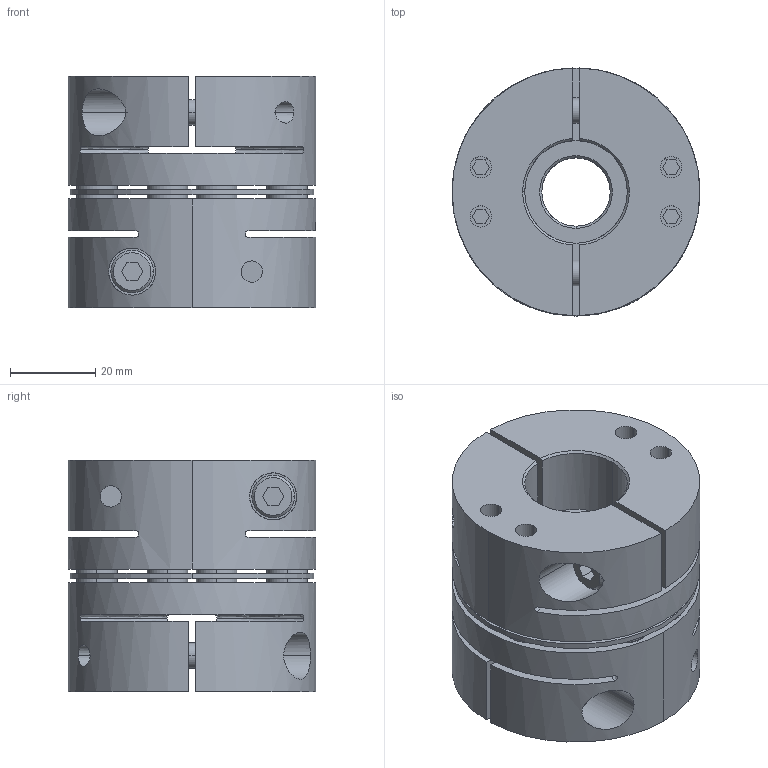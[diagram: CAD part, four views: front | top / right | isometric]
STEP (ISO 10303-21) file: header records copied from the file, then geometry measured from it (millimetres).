
FILE_DESCRIPTION((''),'2;1');
FILE_NAME('TAS-58C-16×24.stp','2022-11-14T22:14:17',(''),(''),'AutoCAD STEP 2000i','AutoCAD 2000i',', , ');
FILE_SCHEMA(('CONFIG_CONTROL_DESIGN'));
Length unit declared in the file: millimetre
Products named in the file (6): TAS-58C-12×22; 忣兜1; TA58C-22; CAP-M6×20; TA58C-12-2; TA58C-12
Assembly tree (7 placements, depth 3):
  TAS-58C-12×22
    忣兜1
    TA58C-22
      CAP-M6×20
    TA58C-12-2
      CAP-M6×20
    TA58C-12
      CAP-M6×20
Bounding box: 58 x 58 x 54.25 mm (x, y, z)
Volume: 105300.9 mm3; surface area: 41679.4 mm2
Topology: 1 solids, 1 shells, 360 faces, 898 edges, 628 vertices
Faces by surface type: plane 160, cylinder 148, cone 36, bspline 16
Entity records: 12805 total; most frequent: CARTESIAN_POINT 3832, DIRECTION 1922, ORIENTED_EDGE 1720, EDGE_CURVE 860, AXIS2_PLACEMENT_3D 732, VERTEX_POINT 564, EDGE_LOOP 464, VECTOR 458
